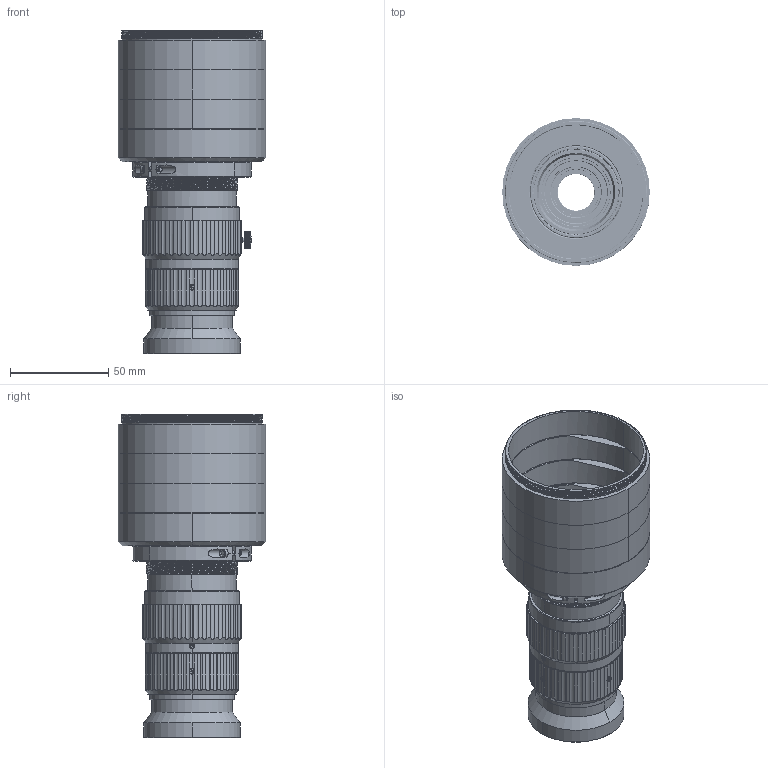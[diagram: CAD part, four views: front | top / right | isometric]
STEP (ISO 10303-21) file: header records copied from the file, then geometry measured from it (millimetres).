
FILE_DESCRIPTION (( 'STEP AP203' ), '1' );
FILE_NAME ('SFA16K-080(050).STEP', '2023-04-06T06:25:41', ( '' ), ( '' ), 'SwSTEP 2.0', 'SolidWorks 2017', '' );
FILE_SCHEMA (( 'CONFIG_CONTROL_DESIGN' ));
Length unit declared in the file: millimetre
Products named in the file (20): M251004001; LS808K-813B; M14503001; LS808K-806-M72; LS808K-804A; LS808K-811B; FA2516A-821; LS808K-802A; LS808K-812B; JD20202002-1; LS808K-803A; LS508K-831; LS808K-814B; LS808K-807-M72; LS808K-817A; SFA16K-080(050); LS808K-816B; LS808K-805; LS808K-815A; LS808K-801A
Assembly tree (25 placements, depth 2):
  SFA16K-080(050)
    LS808K-806-M72
    LS808K-805
    LS808K-802A
    LS808K-814B
    LS808K-815A
    LS808K-816B
    LS808K-817A
    LS808K-804A
    JD20202002-1  x2
    FA2516A-821
    LS508K-831
    LS808K-801A
    LS808K-813B
    LS808K-812B
    LS808K-811B
    LS808K-807-M72  x3
    LS808K-803A
    M14503001  x4
    M251004001
Bounding box: 75.01 x 75.01 x 164.38 mm (x, y, z)
Volume: 93507 mm3; surface area: 131764.2 mm2
Topology: 22 solids, 35 shells, 1769 faces, 4846 edges, 3190 vertices
Faces by surface type: cylinder 743, cone 372, bspline 345, plane 309
Entity records: 140576 total; most frequent: CARTESIAN_POINT 102825, ORIENTED_EDGE 8446, DIRECTION 5772, EDGE_CURVE 4257, VERTEX_POINT 2816, AXIS2_PLACEMENT_3D 2318, B_SPLINE_CURVE_WITH_KNOTS 2093, EDGE_LOOP 1673
